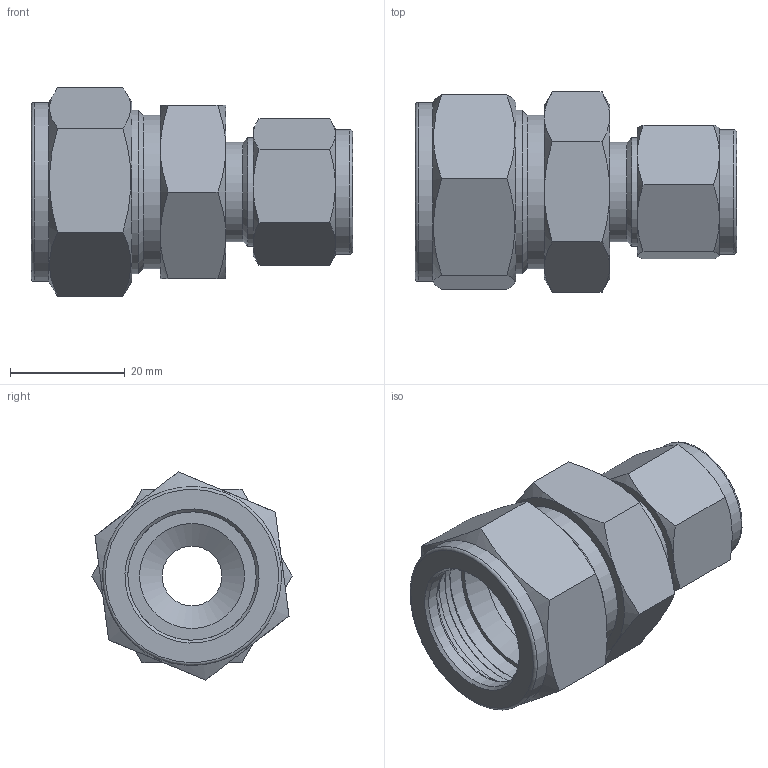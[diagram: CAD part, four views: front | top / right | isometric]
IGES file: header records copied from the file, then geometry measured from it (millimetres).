
Global section: file name: No Iges File Name specified; native system: Autodesk Inventor 2012; preprocessor: AutoDesk Inventor Iges Exporter R2012; author: 硅己绕,,1; organization: 1; date: 20150428.131609; units: millimetre
Bounding box: 55.97 x 34.87 x 36.29 mm (x, y, z)
Volume: 17758.4 mm3; surface area: 12895.6 mm2
Topology: 3 solids, 3 shells, 100 faces, 211 edges, 127 vertices
Faces by surface type: plane 34, cone 30, revolution 24, cylinder 8, torus 4
Full cylindrical faces by diameter (mm): 17.3 x2, 18.9 x1, 21.8 x1, 26.8 x2, 28.58 x1, 31.2 x1
